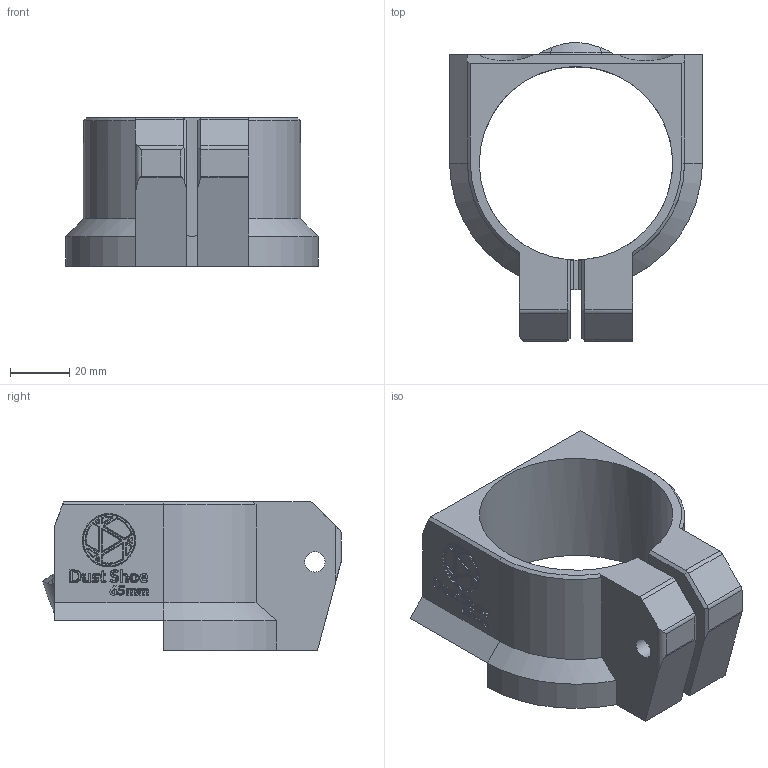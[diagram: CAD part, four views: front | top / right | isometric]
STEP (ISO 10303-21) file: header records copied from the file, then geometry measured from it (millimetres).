
FILE_DESCRIPTION(/* description */ ('STEP AP242 Edition 2','CAx-IF Rec.Pracs.---Representation and Presentation of Product Manufacturing Information (PMI)---4.0---2014-10-13','CAx-IF Rec.Pracs.---3D Tessellated Geometry---0.4---2014-09-14','2;1','CAx-IF Rec.Pracs.---User Defined Attributes---1.5---2016-08-15'),/* implementation_level */ '2;1');
FILE_NAME(/* name */ 'Dust Shoe V8 - LongMill MK3 Dust Shoe Base',/* time_stamp */ '2026-09-09T16:14:06Z',/* author */ (''),/* organization */ (''),/* preprocessor_version */ 'ST-DEVELOPER v20',/* originating_system */ 'ONSHAPE BY PTC INC, 1.220',/* authorisation */ ' ');
FILE_SCHEMA (('AP242_MANAGED_MODEL_BASED_3D_ENGINEERING_MIM_LF { 1 0 10303 442 3 1 4 }'));
Products named in the file (1): LongMill MK3 Dust Shoe Base
Bounding box: 85.2 x 100.66 x 50 mm (x, y, z)
Volume: 94755.7 mm3; surface area: 34400 mm2
Topology: 1 solids, 1 shells, 1546 faces, 3736 edges, 2167 vertices
Faces by surface type: bspline 573, cylinder 525, plane 306, sphere 70, torus 66, cone 6
Full cylindrical faces by diameter (mm): 2.05 x2, 6.9 x2, 21 x2, 65.2 x1
Entity records: 96956 total; most frequent: CARTESIAN_POINT 65153, ORIENTED_EDGE 7264, DIRECTION 5615, EDGE_CURVE 3632, VERTEX_POINT 2158, AXIS2_PLACEMENT_3D 2105, FACE_BOUND 1622, EDGE_LOOP 1620
